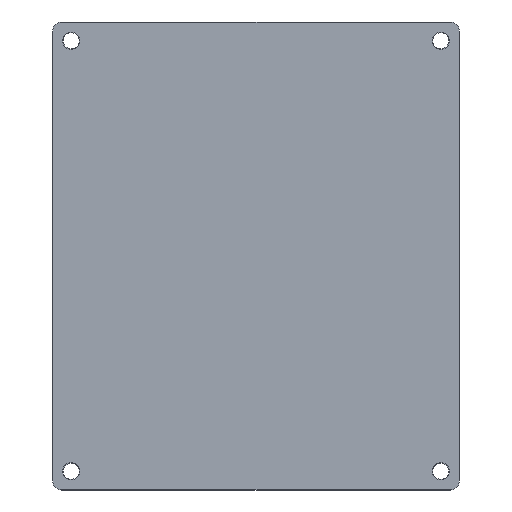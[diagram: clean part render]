
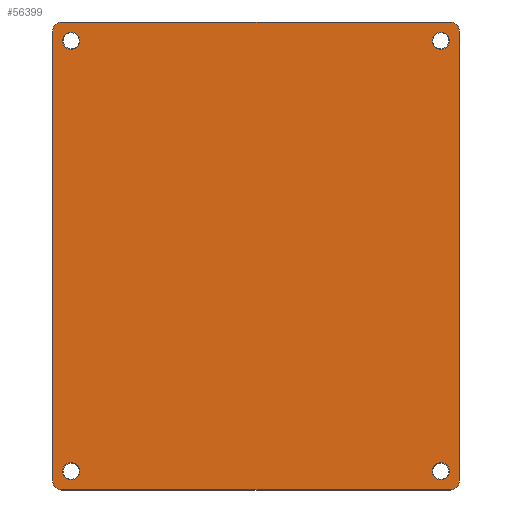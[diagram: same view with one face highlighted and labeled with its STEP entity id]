
A CAD part, top view. The second image highlights one B-rep face of the part: STEP entity #56399.
In plain terms, the highlighted planar face has unit normal (0, 0, 1).
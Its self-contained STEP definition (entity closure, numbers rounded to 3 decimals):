
#50324=CARTESIAN_POINT('',(82.5,89.75,11.198));
#50325=DIRECTION('',(0.,0.,-1.));
#50326=DIRECTION('',(0.,1.,0.));
#50327=AXIS2_PLACEMENT_3D('',#50324,#50325,#50326);
#50332=DIRECTION('',(0.,-1.,0.));
#50333=VECTOR('',#50332,96.);
#50334=CARTESIAN_POINT('',(84.5,89.75,11.198));
#50335=LINE('',#50334,#50333);
#50339=CARTESIAN_POINT('',(82.5,-6.25,11.198));
#50340=DIRECTION('',(0.,0.,-1.));
#50341=DIRECTION('',(1.,0.,0.));
#50342=AXIS2_PLACEMENT_3D('',#50339,#50340,#50341);
#50347=DIRECTION('',(-1.,0.,0.));
#50348=VECTOR('',#50347,83.);
#50349=CARTESIAN_POINT('',(82.5,-8.25,11.198));
#50350=LINE('',#50349,#50348);
#50354=CARTESIAN_POINT('',(-0.5,-6.25,11.198));
#50355=DIRECTION('',(0.,0.,-1.));
#50356=DIRECTION('',(0.,-1.,0.));
#50357=AXIS2_PLACEMENT_3D('',#50354,#50355,#50356);
#50362=DIRECTION('',(0.,1.,0.));
#50363=VECTOR('',#50362,96.);
#50364=CARTESIAN_POINT('',(-2.5,-6.25,11.198));
#50365=LINE('',#50364,#50363);
#50369=CARTESIAN_POINT('',(-0.5,89.75,11.198));
#50370=DIRECTION('',(0.,0.,-1.));
#50371=DIRECTION('',(-1.,0.,0.));
#50372=AXIS2_PLACEMENT_3D('',#50369,#50370,#50371);
#50377=DIRECTION('',(1.,0.,0.));
#50378=VECTOR('',#50377,83.);
#50379=CARTESIAN_POINT('',(-0.5,91.75,11.198));
#50380=LINE('',#50379,#50378);
#50384=CARTESIAN_POINT('',(1.5,87.75,11.198));
#50385=DIRECTION('',(0.,0.,1.));
#50386=DIRECTION('',(1.,0.,0.));
#50387=AXIS2_PLACEMENT_3D('',#50384,#50385,#50386);
#50392=CARTESIAN_POINT('',(1.5,87.75,11.198));
#50393=DIRECTION('',(0.,0.,1.));
#50394=DIRECTION('',(-1.,0.,0.));
#50395=AXIS2_PLACEMENT_3D('',#50392,#50393,#50394);
#50400=CARTESIAN_POINT('',(80.5,87.75,11.198));
#50401=DIRECTION('',(0.,0.,1.));
#50402=DIRECTION('',(1.,0.,0.));
#50403=AXIS2_PLACEMENT_3D('',#50400,#50401,#50402);
#50408=CARTESIAN_POINT('',(80.5,87.75,11.198));
#50409=DIRECTION('',(0.,0.,1.));
#50410=DIRECTION('',(-1.,0.,0.));
#50411=AXIS2_PLACEMENT_3D('',#50408,#50409,#50410);
#50416=CARTESIAN_POINT('',(1.5,-4.25,11.198));
#50417=DIRECTION('',(0.,0.,1.));
#50418=DIRECTION('',(1.,0.,0.));
#50419=AXIS2_PLACEMENT_3D('',#50416,#50417,#50418);
#50424=CARTESIAN_POINT('',(1.5,-4.25,11.198));
#50425=DIRECTION('',(0.,0.,1.));
#50426=DIRECTION('',(-1.,0.,0.));
#50427=AXIS2_PLACEMENT_3D('',#50424,#50425,#50426);
#50432=CARTESIAN_POINT('',(80.5,-4.25,11.198));
#50433=DIRECTION('',(0.,0.,1.));
#50434=DIRECTION('',(1.,0.,0.));
#50435=AXIS2_PLACEMENT_3D('',#50432,#50433,#50434);
#50440=CARTESIAN_POINT('',(80.5,-4.25,11.198));
#50441=DIRECTION('',(0.,0.,1.));
#50442=DIRECTION('',(-1.,0.,0.));
#50443=AXIS2_PLACEMENT_3D('',#50440,#50441,#50442);
#55272=CARTESIAN_POINT('',(84.5,89.75,11.198));
#55273=VERTEX_POINT('',#55272);
#55274=CARTESIAN_POINT('',(82.5,91.75,11.198));
#55275=VERTEX_POINT('',#55274);
#55276=CARTESIAN_POINT('',(84.5,-6.25,11.198));
#55277=VERTEX_POINT('',#55276);
#55278=CARTESIAN_POINT('',(82.5,-8.25,11.198));
#55279=VERTEX_POINT('',#55278);
#55280=CARTESIAN_POINT('',(-0.5,-8.25,11.198));
#55281=VERTEX_POINT('',#55280);
#55417=CARTESIAN_POINT('',(-2.5,-6.25,11.198));
#55418=VERTEX_POINT('',#55417);
#55419=CARTESIAN_POINT('',(-2.5,89.75,11.198));
#55420=VERTEX_POINT('',#55419);
#55421=CARTESIAN_POINT('',(-0.5,91.75,11.198));
#55422=VERTEX_POINT('',#55421);
#55423=CARTESIAN_POINT('',(3.35,87.75,11.198));
#55424=CARTESIAN_POINT('',(-0.35,87.75,11.198));
#55425=VERTEX_POINT('',#55423);
#55426=VERTEX_POINT('',#55424);
#55427=CARTESIAN_POINT('',(82.35,87.75,11.198));
#55428=CARTESIAN_POINT('',(78.65,87.75,11.198));
#55429=VERTEX_POINT('',#55427);
#55430=VERTEX_POINT('',#55428);
#55431=CARTESIAN_POINT('',(3.35,-4.25,11.198));
#55432=CARTESIAN_POINT('',(-0.35,-4.25,11.198));
#55433=VERTEX_POINT('',#55431);
#55434=VERTEX_POINT('',#55432);
#55435=CARTESIAN_POINT('',(82.35,-4.25,11.198));
#55436=CARTESIAN_POINT('',(78.65,-4.25,11.198));
#55437=VERTEX_POINT('',#55435);
#55438=VERTEX_POINT('',#55436);
#56360=CARTESIAN_POINT('',(0.,0.,11.198));
#56361=DIRECTION('',(0.,0.,1.));
#56362=DIRECTION('',(1.,0.,0.));
#56363=AXIS2_PLACEMENT_3D('',#56360,#56361,#56362);
#56364=PLANE('',#56363);
#56365=ORIENTED_EDGE('',*,*,#56150,.T.);
#56366=ORIENTED_EDGE('',*,*,#56165,.T.);
#56367=ORIENTED_EDGE('',*,*,#56179,.T.);
#56368=ORIENTED_EDGE('',*,*,#56193,.T.);
#56369=ORIENTED_EDGE('',*,*,#56313,.T.);
#56370=ORIENTED_EDGE('',*,*,#56327,.T.);
#56371=ORIENTED_EDGE('',*,*,#56341,.T.);
#56372=ORIENTED_EDGE('',*,*,#56354,.T.);
#56373=EDGE_LOOP('',(#56365,#56366,#56367,#56368,#56369,#56370,#56371,#56372));
#56374=FACE_OUTER_BOUND('',#56373,.F.);
#56376=ORIENTED_EDGE('',*,*,#56375,.T.);
#56378=ORIENTED_EDGE('',*,*,#56377,.T.);
#56379=EDGE_LOOP('',(#56376,#56378));
#56380=FACE_BOUND('',#56379,.F.);
#56382=ORIENTED_EDGE('',*,*,#56381,.T.);
#56384=ORIENTED_EDGE('',*,*,#56383,.T.);
#56385=EDGE_LOOP('',(#56382,#56384));
#56386=FACE_BOUND('',#56385,.F.);
#56388=ORIENTED_EDGE('',*,*,#56387,.T.);
#56390=ORIENTED_EDGE('',*,*,#56389,.T.);
#56391=EDGE_LOOP('',(#56388,#56390));
#56392=FACE_BOUND('',#56391,.F.);
#56394=ORIENTED_EDGE('',*,*,#56393,.T.);
#56396=ORIENTED_EDGE('',*,*,#56395,.T.);
#56397=EDGE_LOOP('',(#56394,#56396));
#56398=FACE_BOUND('',#56397,.F.);
#50328=CIRCLE('',#50327,2.);
#50343=CIRCLE('',#50342,2.);
#50358=CIRCLE('',#50357,2.);
#50373=CIRCLE('',#50372,2.);
#50388=CIRCLE('',#50387,1.85);
#50396=CIRCLE('',#50395,1.85);
#50404=CIRCLE('',#50403,1.85);
#50412=CIRCLE('',#50411,1.85);
#50420=CIRCLE('',#50419,1.85);
#50428=CIRCLE('',#50427,1.85);
#50436=CIRCLE('',#50435,1.85);
#50444=CIRCLE('',#50443,1.85);
#56150=EDGE_CURVE('',#55275,#55273,#50328,.T.);
#56165=EDGE_CURVE('',#55273,#55277,#50335,.T.);
#56179=EDGE_CURVE('',#55277,#55279,#50343,.T.);
#56193=EDGE_CURVE('',#55279,#55281,#50350,.T.);
#56313=EDGE_CURVE('',#55281,#55418,#50358,.T.);
#56327=EDGE_CURVE('',#55418,#55420,#50365,.T.);
#56341=EDGE_CURVE('',#55420,#55422,#50373,.T.);
#56354=EDGE_CURVE('',#55422,#55275,#50380,.T.);
#56375=EDGE_CURVE('',#55425,#55426,#50388,.T.);
#56377=EDGE_CURVE('',#55426,#55425,#50396,.T.);
#56381=EDGE_CURVE('',#55429,#55430,#50404,.T.);
#56383=EDGE_CURVE('',#55430,#55429,#50412,.T.);
#56387=EDGE_CURVE('',#55433,#55434,#50420,.T.);
#56389=EDGE_CURVE('',#55434,#55433,#50428,.T.);
#56393=EDGE_CURVE('',#55437,#55438,#50436,.T.);
#56395=EDGE_CURVE('',#55438,#55437,#50444,.T.);
#56399=ADVANCED_FACE('',(#56374,#56380,#56386,#56392,#56398),#56364,.T.);
